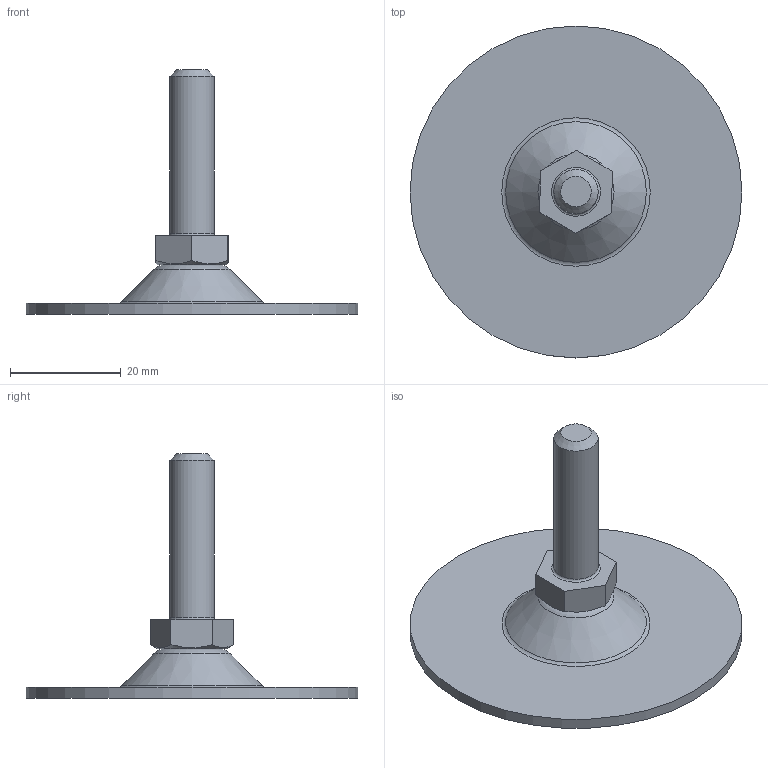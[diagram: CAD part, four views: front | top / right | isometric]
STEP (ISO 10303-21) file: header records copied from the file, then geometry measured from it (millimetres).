
FILE_DESCRIPTION(('STEP AP203'), '1');
FILE_NAME('A00050.1060816', '', ('UNSPECIFIED'), ('UNSPECIFIED'), 'C3D Converter', 'C3D Toolkit', '');
FILE_SCHEMA(('CONFIG_CONTROL_DESIGN'));
Length unit declared in the file: millimetre
Products named in the file (4): A00050.1060830; A00050.1160
Assembly tree (3 placements, depth 2):
  A00050.1060830
    A00050.1160
    (unnamed)
    (unnamed)
Bounding box: 60 x 60 x 44.26 mm (x, y, z)
Volume: 8248.6 mm3; surface area: 8017 mm2
Topology: 3 solids, 3 shells, 58 faces, 130 edges, 82 vertices
Faces by surface type: plane 28, torus 8, bspline 8, cone 7, cylinder 6, sphere 1
Full cylindrical faces by diameter (mm): 3.3 x1, 4 x1, 4.5 x1, 8 x2, 60 x1
Entity records: 2171 total; most frequent: CARTESIAN_POINT 784, DIRECTION 242, ORIENTED_EDGE 214, EDGE_CURVE 107, AXIS2_PLACEMENT_3D 95, EDGE_LOOP 86, VERTEX_POINT 81, ADVANCED_FACE 58
